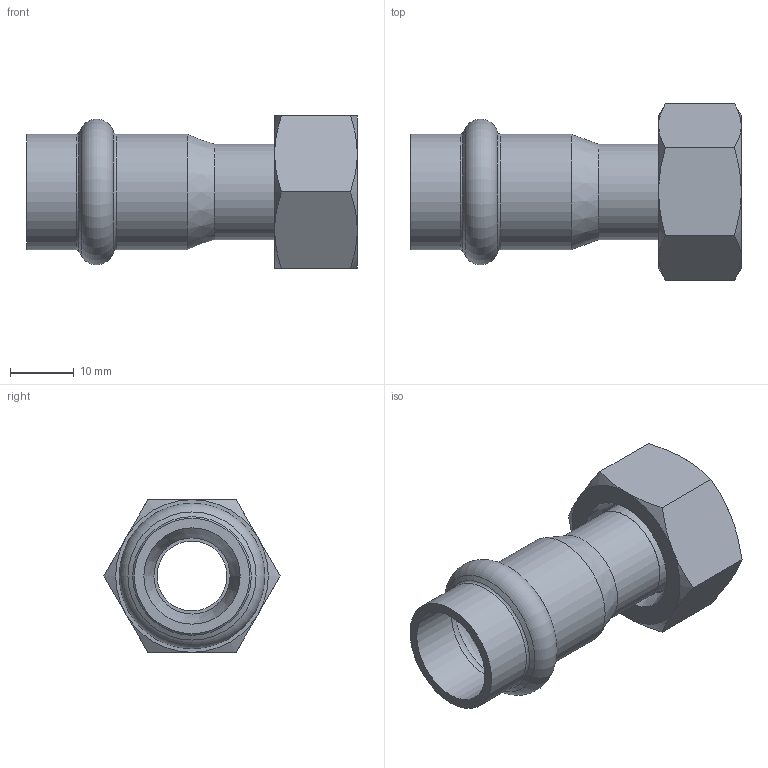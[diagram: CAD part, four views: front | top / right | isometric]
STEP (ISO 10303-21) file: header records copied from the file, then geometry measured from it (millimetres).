
FILE_DESCRIPTION((''),'2;1');
FILE_NAME('G:\Nirosan-Schmiedefeld\Technics\CAD\Bauteile VA\015\69359m1512(3).stp','2011-04-01T13:29:15',('herberg'),(''),'Autodesk Inventor 2009','Autodesk Inventor 2009','');
FILE_SCHEMA(('AUTOMOTIVE_DESIGN { 1 0 10303 214 1 1 1 1 }'));
Length unit declared in the file: millimetre
Products named in the file (5): 69359m1512(3); HM_6924315(0); R1512(1); FD_1811_EPDM(0); SM1512(2)
Assembly tree (4 placements, depth 2):
  69359m1512(3)
    HM_6924315(0)
    R1512(1)
    FD_1811_EPDM(0)
    SM1512(2)
Bounding box: 52 x 27.71 x 24 mm (x, y, z)
Volume: 7291.4 mm3; surface area: 8081.3 mm2
Topology: 4 solids, 4 shells, 53 faces, 101 edges, 58 vertices
Faces by surface type: cone 18, plane 15, cylinder 11, bspline 6, torus 3
Full cylindrical faces by diameter (mm): 11 x1, 12 x2, 15 x2, 15.15 x2, 18 x2, 18.15 x2
Entity records: 1549 total; most frequent: CARTESIAN_POINT 476, DIRECTION 210, ORIENTED_EDGE 152, AXIS2_PLACEMENT_3D 102, EDGE_LOOP 88, EDGE_CURVE 76, VERTEX_POINT 58, FACE_OUTER_BOUND 53
